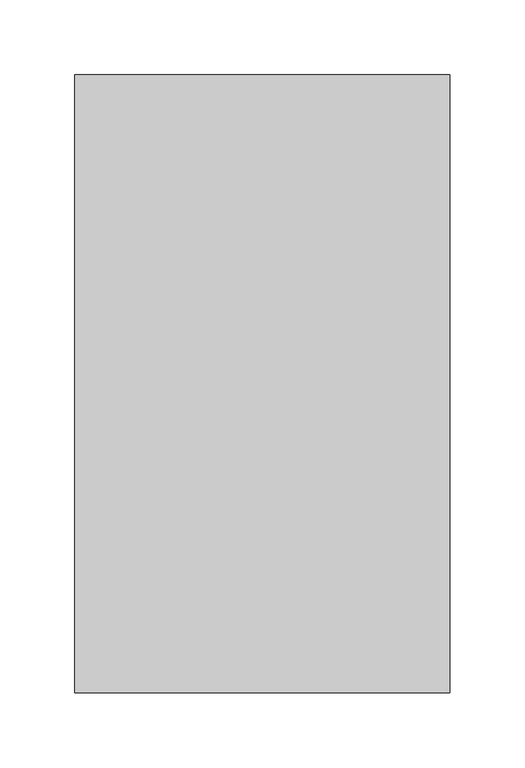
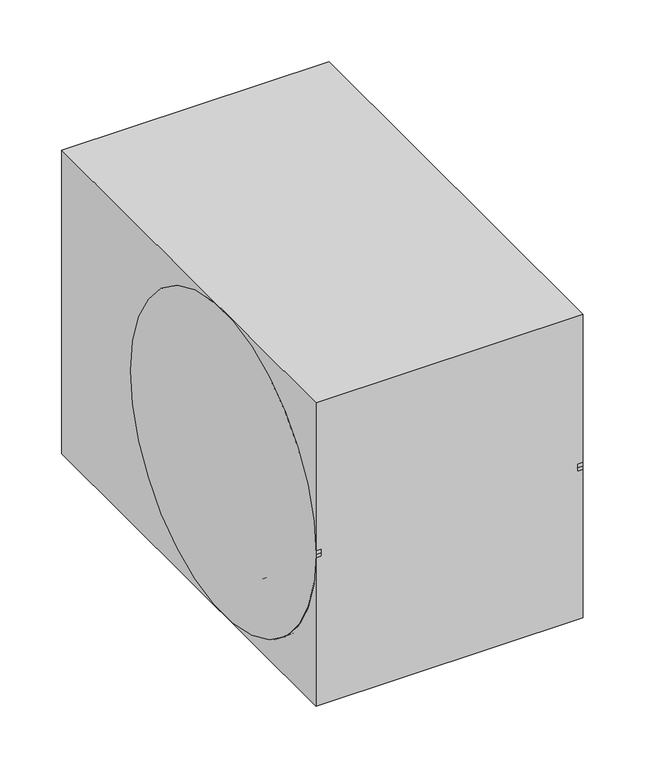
"""IFC4 building model written with IfcOpenShell, lengths in millimetres: damper geometry, КлапанОгнезадерживающийКруглый_НО_LVR : КлапанОгнезадерживающийКруглый_НО_LVR."""

from ifc_helpers import new_model, si_unit, frame, origin, place, context, project, spatial, polyline, circle_curve, outline, extrude, source, transform, mapped, element, save
from ifc_brep_helpers import plane_surface, cylinder_surface, advanced_brep


def damper_77c5eded(model_context):
    return source(origin(), model_context, "Body", "SolidModel", [
        extrude(outline(polyline([(57.0, 262.0), (57.0, 100.0), (-105.0, 100.0), (-105.0, 262.0), (57.0, 262.0)])), frame((0.0, 0.0, -52.0), z_axis=(0.0, 0.0, 1.0), x_axis=(1.0, 0.0, 0.0)), (0.0, 0.0, 1.0), 104.0),
        advanced_brep(
        [(125.0, -150.0, 0.0), (125.0, 150.0, 0.0), (-125.0, -150.0, 0.0), (-125.0, 150.0, 0.0), (120.0, 150.0, 0.0), (120.0, -150.0, 0.0), (120.0, -100.0, 0.0), (120.0, 100.0, 0.0), (-120.0, -150.0, 0.0), (-120.0, 150.0, 0.0), (-120.0, -100.0, 0.0), (-120.0, 100.0, 0.0)],
        [
            (0, 1, circle_curve(frame((125.0, 0.0, 0.0), z_axis=(1.0, 0.0, 0.0), x_axis=(0.0, 1.0, 0.0)), 150.0)),
            (1, 0, circle_curve(frame((125.0, 0.0, 0.0), z_axis=(1.0, 0.0, 0.0), x_axis=(0.0, 1.0, 0.0)), 150.0)),
            (2, 3, circle_curve(frame((-125.0, 0.0, 0.0), z_axis=(-1.0, 0.0, 0.0), x_axis=(0.0, 1.0, 0.0)), 150.0)),
            (3, 2, circle_curve(frame((-125.0, 0.0, 0.0), z_axis=(-1.0, 0.0, 0.0), x_axis=(0.0, 1.0, 0.0)), 150.0)),
            (4, 5, circle_curve(frame((120.0, 0.0, 0.0), z_axis=(-1.0, 0.0, 0.0), x_axis=(0.0, 1.0, 0.0)), 150.0)),
            (5, 4, circle_curve(frame((120.0, 0.0, 0.0), z_axis=(-1.0, 0.0, 0.0), x_axis=(0.0, 1.0, 0.0)), 150.0)),
            (6, 7, circle_curve(frame((120.0, 0.0, 0.0), z_axis=(1.0, 0.0, 0.0), x_axis=(0.0, 1.0, 0.0)), 100.0)),
            (7, 6, circle_curve(frame((120.0, 0.0, 0.0), z_axis=(1.0, 0.0, 0.0), x_axis=(0.0, 1.0, 0.0)), 100.0)),
            (8, 9, circle_curve(frame((-120.0, 0.0, 0.0), z_axis=(1.0, 0.0, 0.0), x_axis=(0.0, 1.0, 0.0)), 150.0)),
            (9, 8, circle_curve(frame((-120.0, 0.0, 0.0), z_axis=(1.0, 0.0, 0.0), x_axis=(0.0, 1.0, 0.0)), 150.0)),
            (10, 11, circle_curve(frame((-120.0, 0.0, 0.0), z_axis=(-1.0, 0.0, 0.0), x_axis=(0.0, 1.0, 0.0)), 100.0)),
            (11, 10, circle_curve(frame((-120.0, 0.0, 0.0), z_axis=(-1.0, 0.0, 0.0), x_axis=(0.0, 1.0, 0.0)), 100.0)),
            (0, 5),
            (4, 1),
            (3, 9),
            (8, 2),
            (7, 11),
            (10, 6),
        ],
        [
            plane_surface(frame((125.0, 150.0, 0.0), z_axis=(1.0, 0.0, 0.0), x_axis=(0.0, 0.0, 1.0))),
            plane_surface(frame((-125.0, 150.0, 0.0), z_axis=(-1.0, 0.0, 0.0), x_axis=(0.0, 0.0, -1.0))),
            plane_surface(frame((120.0, 150.0, 0.0), z_axis=(-1.0, 0.0, 0.0), x_axis=(0.0, 0.0, 1.0))),
            plane_surface(frame((-120.0, 150.0, 0.0), z_axis=(1.0, 0.0, 0.0), x_axis=(0.0, 0.0, -1.0))),
            cylinder_surface(frame((-125.0, 0.0, 0.0), z_axis=(1.0, 0.0, 0.0), x_axis=(0.0, 1.0, 0.0)), 150.0),
            cylinder_surface(frame((0.0, 0.0, 0.0), z_axis=(-1.0, 0.0, 0.0), x_axis=(0.0, 1.0, 0.0)), 100.0),
        ],
        [
            (0, [[1, 2]]),
            (1, [[3, 4]]),
            (2, [[5, 6], [7, 8]]),
            (3, [[9, 10], [11, 12]]),
            (4, [[-1, 13, -5, 14]]),
            (4, [[-4, 15, -9, 16]]),
            (4, [[-2, -14, -6, -13]]),
            (4, [[-3, -16, -10, -15]]),
            (5, [[-8, 17, -11, 18]]),
            (5, [[-7, -18, -12, -17]]),
        ],
    ),
        extrude(outline(polyline([(125.0, 262.0), (125.0, -150.0), (-125.0, -150.0), (-125.0, 262.0), (125.0, 262.0)])), frame((0.0, 0.0, -150.0), z_axis=(0.0, 0.0, 1.0), x_axis=(1.0, 0.0, 0.0)), (0.0, 0.0, 1.0), 300.0),
    ])


if __name__ == "__main__":
    model = new_model("IFC4")
    model_context = context("Model", 3, world=origin())
    ifc_project = project(units=[si_unit("LENGTHUNIT", "METRE", prefix="MILLI")], contexts=[model_context])
    site = spatial("IfcSite", under=ifc_project)
    building = spatial("IfcBuilding", under=site)
    placement = place(None, origin())
    damper_shape = damper_77c5eded(model_context)
    element("IfcDamper", 1, ObjectType="КлапанОгнезадерживающийКруглый_НО_LVR : КлапанОгнезадерживающийКруглый_НО_LVR", at=placement, inside=building, context=model_context, shape_type="MappedRepresentation", body=[
        mapped(damper_shape, transform((0.0, 0.0, 0.0), x_axis=(1.0, 0.0, 0.0), y_axis=(0.0, 1.0, 0.0), z_axis=(0.0, 0.0, 1.0))),
    ])
    save(model, "model.ifc")
